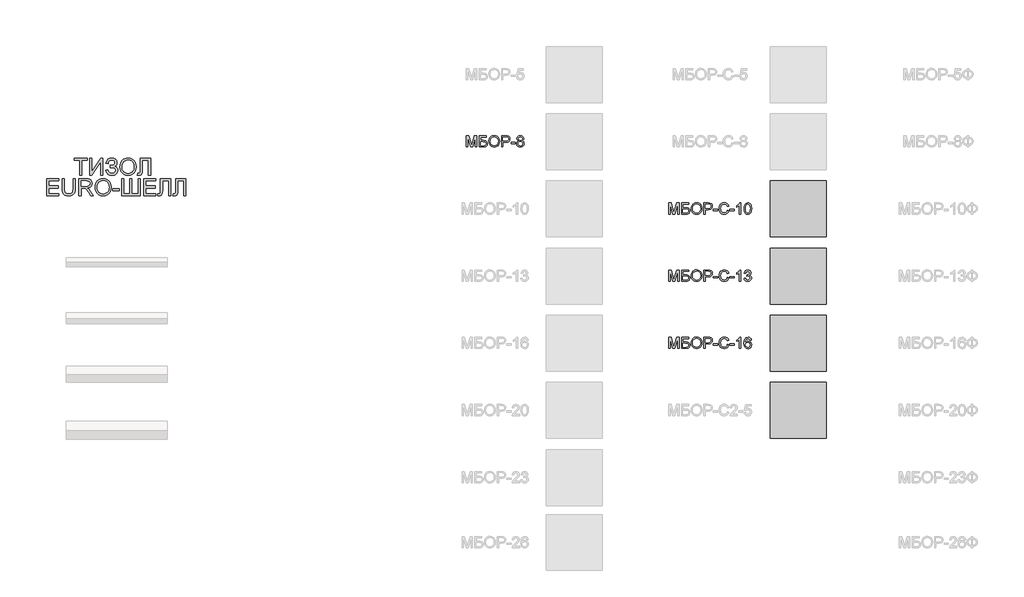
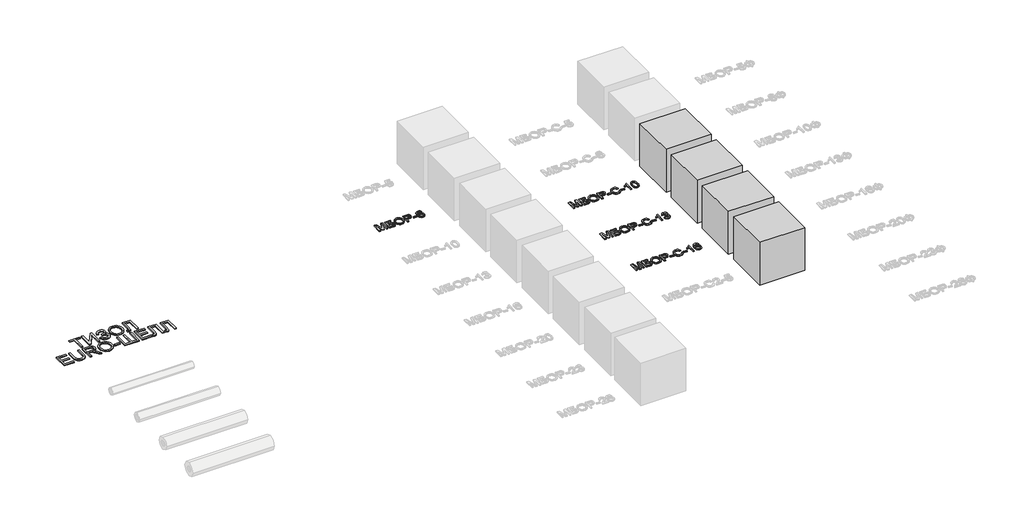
# One storey, part 23 of 35: 9 proxies.
"""IFC4 building model written with IfcOpenShell, lengths in millimetres."""

from ifc_helpers import new_model, si_unit, origin, origin_with_axes, place, context, project, spatial, polyline, outline, extrude, transform, mapped, element, save
from components import generic_models_0168a45e

model = new_model("IFC4")

# Units and contexts
model_context = context("Model", 3, world=origin())
ifc_project = project(units=[si_unit("LENGTHUNIT", "METRE", prefix="MILLI")], contexts=[model_context])

# Site, building, storey
site = spatial("IfcSite", under=ifc_project)
building = spatial("IfcBuilding", under=site)
storey = spatial("IfcBuildingStorey", under=building, Name="Этаж 01", Elevation=0.0)

# Proxies
placement = place(None, origin())
element("IfcBuildingElementProxy", 1, Name="600 мм Arial", ObjectType="600 мм Arial", at=placement, inside=storey, context=model_context, shape_type="SweptSolid", body=[
    extrude(outline(polyline([(1312.8246338, -23914.0239469), (1312.8246338, -23650.3261327), (1213.9379535, -23650.3261327), (1213.9379535, -23612.6550164), (1449.3824304, -23612.6550164), (1449.3824304, -23650.3261327), (1350.4957501, -23650.3261327), (1350.4957501, -23914.0239469), (1312.8246338, -23914.0239469)])), origin_with_axes(), (0.0, 0.0, 1.0), 20.0),
    extrude(outline(polyline([(1491.7624363, -23612.6550164), (1529.4335526, -23612.6550164), (1529.4335526, -23851.3368549), (1687.1813521, -23612.6550164), (1727.2069132, -23612.6550164), (1727.2069132, -23914.0239469), (1689.5357969, -23914.0239469), (1689.5357969, -23676.004296), (1532.1558793, -23914.0239469), (1491.7624363, -23914.0239469), (1491.7624363, -23612.6550164)])), origin_with_axes(), (0.0, 0.0, 1.0), 20.0),
    extrude(outline(polyline([(1779.0046981, -23829.2639352), (1816.6758144, -23819.8461561), (1824.6312626, -23840.2360157), (1839.8155919, -23860.6442694), (1861.6769795, -23875.9573574), (1889.6636023, -23881.0617201), (1918.018107, -23877.2265503), (1939.6587654, -23865.7210409), (1953.3715668, -23848.7892721), (1957.9425006, -23828.675324), (1952.9485025, -23807.6048827), (1937.9665082, -23791.3353015), (1914.3760753, -23780.9334381), (1883.5567611, -23777.4661503), (1863.7647098, -23777.4661503), (1863.7647098, -23739.795034), (1906.402233, -23736.7416134), (1920.2989754, -23731.315354), (1932.4850665, -23721.1434168), (1940.9831406, -23707.7433151), (1943.8158319, -23692.6325622), (1940.0450415, -23674.891453), (1928.7326701, -23659.6335472), (1910.9823639, -23649.1213192), (1887.8977687, -23645.6172432), (1867.0296625, -23648.3119788), (1849.4541002, -23656.3961856), (1835.9896192, -23668.9317646), (1827.4547569, -23684.9806167), (1821.384704, -23711.5416967), (1783.7135876, -23702.1239176), (1795.4168336, -23660.9211342), (1804.8311638, -23644.7343264), (1816.6206321, -23631.4905746), (1830.7852386, -23621.1898787), (1847.3249831, -23613.8322388), (1866.2398658, -23609.4176549), (1887.5298867, -23607.9461269), (1908.0416072, -23609.4751364), (1926.313846, -23614.0621651), (1942.3466032, -23621.7072128), (1956.1398788, -23632.4102796), (1967.2292217, -23645.15969), (1975.1501809, -23658.9437685), (1979.9027564, -23673.7625151), (1981.4869483, -23689.6159298), (1979.0221389, -23709.4401708), (1971.6277108, -23726.90077), (1959.3036639, -23741.9977274), (1942.0499984, -23754.731043), (1963.000878, -23764.3787483), (1980.2361495, -23780.6667236), (1991.76925, -23802.1970174), (1995.6136169, -23827.571678), (1993.7696084, -23846.2026018), (1988.2375829, -23863.2470345), (1979.0175404, -23878.7049761), (1966.1094809, -23892.5764266), (1950.1571978, -23904.0198559), (1931.8044848, -23912.1937339), (1911.0513418, -23917.0980608), (1887.8977687, -23918.7328364), (1849.6932235, -23913.1410301), (1833.3362703, -23906.1512722), (1818.80953, -23896.3656111), (1806.1130026, -23883.7840469), (1795.2466882, -23868.4065795), (1779.0046981, -23829.2639352)])), origin_with_axes(), (0.0, 0.0, 1.0), 20.0),
    extrude(outline(polyline([(2033.2847332, -23767.3126072), (2035.7955278, -23731.963746), (2043.3279116, -23700.6707838), (2055.8818847, -23673.4337205), (2073.457447, -23650.2525563), (2095.0015364, -23631.7434934), (2119.4610905, -23618.5227342), (2146.8361095, -23610.5902787), (2177.1265933, -23607.9461269), (2216.6555137, -23612.9125338), (2252.1009439, -23627.8117546), (2281.5315035, -23651.5953256), (2303.015812, -23683.2147831), (2316.1491993, -23721.1434168), (2320.526995, -23763.8545164), (2315.919273, -23807.1358332), (2302.096107, -23845.5978958), (2279.8208522, -23877.2725356), (2249.8568637, -23900.1915839), (2214.7149361, -23914.0975233), (2176.9058641, -23918.7328364), (2136.7699384, -23913.6100796), (2101.1221731, -23898.2418093), (2071.7651899, -23874.0167799), (2050.5016105, -23842.323746), (2037.5889525, -23805.8574432), (2033.2847332, -23767.3126072)]), holes=[polyline([(2070.9558495, -23767.6804892), (2072.8389454, -23792.6550781), (2078.4882333, -23814.8245669), (2087.9037131, -23834.1889554), (2101.0853849, -23850.7482437), (2117.108945, -23864.0103896), (2135.0500901, -23873.483351), (2154.90882, -23879.1671278), (2176.6851349, -23881.0617201), (2198.8339303, -23879.1487337), (2218.927185, -23873.4097746), (2236.9648991, -23863.8448427), (2252.9470725, -23850.4539381), (2266.0321752, -23833.5451619), (2275.3786771, -23813.4266153), (2280.9865783, -23790.0982983), (2282.8558787, -23763.5602108), (2279.6553053, -23730.211708), (2270.0535853, -23701.3881537), (2254.2990388, -23677.8161148), (2232.6399864, -23660.2221584), (2206.5111677, -23649.268472), (2177.3473225, -23645.6172432), (2156.327465, -23647.376179), (2136.8251207, -23652.6529863), (2118.8402897, -23661.4476653), (2102.3729719, -23673.7602158), (2088.6279808, -23690.1838476), (2078.8101301, -23711.3117705), (2072.9194196, -23737.1439843), (2070.9558495, -23767.6804892)])]), origin_with_axes(), (0.0, 0.0, 1.0), 20.0),
    extrude(outline(polyline([(2395.8692276, -23612.6550164), (2579.5159196, -23612.6550164), (2579.5159196, -23914.0239469), (2541.8448033, -23914.0239469), (2541.8448033, -23650.3261327), (2433.5403439, -23650.3261327), (2433.5403439, -23804.1008067), (2429.1625482, -23872.7107988), (2422.3843224, -23892.09818), (2410.8052366, -23906.6295188), (2394.9495226, -23915.707007), (2375.3414123, -23918.7328364), (2344.0714427, -23914.0239469), (2348.7803322, -23876.3528306), (2366.80655, -23881.0617201), (2379.5444641, -23878.5325314), (2388.6219523, -23870.9449652), (2394.0574088, -23853.9764082), (2395.8692276, -23823.3042469), (2395.8692276, -23612.6550164)])), origin_with_axes(), (0.0, 0.0, 1.0), 20.0),
    extrude(outline(polyline([(721.8589968, -24279.9484004), (721.8589968, -23978.57947), (938.4679155, -23978.57947), (938.4679155, -24016.2505863), (759.5301131, -24016.2505863), (759.5301131, -24105.7194875), (929.0501365, -24105.7194875), (929.0501365, -24143.3906038), (759.5301131, -24143.3906038), (759.5301131, -24242.2772841), (943.1768051, -24242.2772841), (943.1768051, -24279.9484004), (721.8589968, -24279.9484004)])), origin_with_axes(), (0.0, 0.0, 1.0), 20.0),
    extrude(outline(polyline([(1197.4568401, -23978.57947), (1235.1279564, -23978.57947), (1235.1279564, -24152.4405009), (1232.5711766, -24193.1558407), (1224.900837, -24224.5085837), (1210.5718333, -24248.6968249), (1188.0390611, -24267.9186592), (1157.2473381, -24280.4726322), (1118.141482, -24284.6572899), (1079.8909515, -24281.0152582), (1049.3107607, -24270.0891629), (1026.3917124, -24252.2560832), (1011.1246096, -24227.8930981), (1002.543762, -24195.2159799), (999.6834795, -24152.4405009), (999.6834795, -23978.57947), (1037.3545958, -23978.57947), (1037.3545958, -24151.1161257), (1039.2123999, -24184.9704663), (1044.7858121, -24208.5425051), (1054.8841729, -24224.8672687), (1070.3168226, -24236.9797834), (1090.4399677, -24244.4845761), (1114.6098148, -24246.9861736), (1152.9247246, -24242.0381608), (1167.2675239, -24235.8531448), (1178.4005528, -24227.1941223), (1186.7376785, -24215.0172283), (1192.6927683, -24198.2785975), (1197.4568401, -24151.1161257), (1197.4568401, -23978.57947)])), origin_with_axes(), (0.0, 0.0, 1.0), 20.0),
    extrude(outline(polyline([(1301.05241, -24279.9484004), (1301.05241, -23978.57947), (1430.9147543, -23978.57947), (1465.8175586, -23980.612018), (1491.2106133, -23986.7096621), (1509.7702599, -23997.9668511), (1524.17284, -24015.4780341), (1533.4158752, -24037.1922688), (1536.4968869, -24061.0586133), (1531.3925242, -24090.7466903), (1516.0794362, -24115.3579958), (1504.479657, -24125.3873787), (1490.0977702, -24133.4026076), (1452.987674, -24143.3906038), (1474.3984061, -24159.5038352), (1504.9326117, -24198.2785975), (1555.1852922, -24279.9484004), (1511.4073348, -24279.9484004), (1472.1911141, -24217.4820376), (1443.8642005, -24176.1321014), (1423.9617846, -24156.5975674), (1406.0459314, -24149.4238685), (1384.1937409, -24148.0994933), (1338.7235263, -24148.0994933), (1338.7235263, -24279.9484004), (1301.05241, -24279.9484004)]), holes=[polyline([(1338.7235263, -24110.428377), (1423.0420796, -24110.428377), (1447.2579119, -24109.0948048), (1466.0474848, -24105.0940881), (1480.1925475, -24098.1595125), (1490.4748493, -24088.0243635), (1496.7380403, -24075.764696), (1498.8257706, -24062.4565649), (1494.843448, -24044.0808592), (1482.8964802, -24029.2736089), (1462.3410737, -24019.5063419), (1432.533435, -24016.2505863), (1338.7235263, -24016.2505863), (1338.7235263, -24110.428377)])]), origin_with_axes(), (0.0, 0.0, 1.0), 20.0),
    extrude(outline(polyline([(1588.2946718, -24133.2370607), (1590.8054664, -24097.8881995), (1598.3378503, -24066.5952373), (1610.8918234, -24039.3581741), (1628.4673857, -24016.1770099), (1650.011475, -23997.667947), (1674.4710292, -23984.4471878), (1701.8460481, -23976.5147323), (1732.1365319, -23973.8705804), (1771.6654523, -23978.8369874), (1807.1108825, -23993.7362082), (1836.5414422, -24017.5197791), (1858.0257507, -24049.1392366), (1871.1591379, -24087.0678703), (1875.5369336, -24129.77897), (1870.9292117, -24173.0602867), (1857.1060457, -24211.5223493), (1834.8307909, -24243.1969891), (1804.8668024, -24266.1160374), (1769.7248748, -24280.0219768), (1731.9158027, -24284.6572899), (1691.7798771, -24279.5345332), (1656.1321117, -24264.1662628), (1626.7751285, -24239.9412334), (1605.5115492, -24208.2481995), (1592.5988912, -24171.7818968), (1588.2946718, -24133.2370607)]), holes=[polyline([(1625.9657881, -24133.6049427), (1627.8488841, -24158.5795317), (1633.498172, -24180.7490204), (1642.9136518, -24200.1134089), (1656.0953235, -24216.6726972), (1672.1188837, -24229.9348432), (1690.0600287, -24239.4078045), (1709.9187587, -24245.0915814), (1731.6950735, -24246.9861736), (1753.8438689, -24245.0731873), (1773.9371236, -24239.3342281), (1791.9748377, -24229.7692963), (1807.9570111, -24216.3783916), (1821.0421138, -24199.4696154), (1830.3886158, -24179.3510688), (1835.9965169, -24156.0227518), (1837.8658173, -24129.4846644), (1834.665244, -24096.1361615), (1825.0635239, -24067.3126072), (1809.3089775, -24043.7405684), (1787.649925, -24026.1466119), (1761.5211063, -24015.1929255), (1732.3572611, -24011.5416967), (1711.3374036, -24013.3006325), (1691.8350593, -24018.5774399), (1673.8502283, -24027.3721188), (1657.3829105, -24039.6846694), (1643.6379195, -24056.1083012), (1633.8200687, -24077.236224), (1627.9293583, -24103.0684379), (1625.9657881, -24133.6049427)])]), origin_with_axes(), (0.0, 0.0, 1.0), 20.0),
    extrude(outline(polyline([(1903.7902709, -24190.4794992), (1903.7902709, -24152.8083829), (2021.5125093, -24152.8083829), (2021.5125093, -24190.4794992), (1903.7902709, -24190.4794992)])), origin_with_axes(), (0.0, 0.0, 1.0), 20.0),
    extrude(outline(polyline([(2063.8925152, -23978.57947), (2101.5636315, -23978.57947), (2101.5636315, -24242.2772841), (2209.8680909, -24242.2772841), (2209.8680909, -23978.57947), (2247.5392072, -23978.57947), (2247.5392072, -24242.2772841), (2355.8436665, -24242.2772841), (2355.8436665, -23978.57947), (2393.5147829, -23978.57947), (2393.5147829, -24279.9484004), (2063.8925152, -24279.9484004), (2063.8925152, -23978.57947)])), origin_with_axes(), (0.0, 0.0, 1.0), 20.0),
    extrude(outline(polyline([(2454.7303468, -24279.9484004), (2454.7303468, -23978.57947), (2671.3392656, -23978.57947), (2671.3392656, -24016.2505863), (2492.4014632, -24016.2505863), (2492.4014632, -24105.7194875), (2661.9214865, -24105.7194875), (2661.9214865, -24143.3906038), (2492.4014632, -24143.3906038), (2492.4014632, -24242.2772841), (2676.0481551, -24242.2772841), (2676.0481551, -24279.9484004), (2454.7303468, -24279.9484004)])), origin_with_axes(), (0.0, 0.0, 1.0), 20.0),
    extrude(outline(polyline([(2756.0992773, -23978.57947), (2939.7459693, -23978.57947), (2939.7459693, -24279.9484004), (2902.074853, -24279.9484004), (2902.074853, -24016.2505863), (2793.7703936, -24016.2505863), (2793.7703936, -24170.0252602), (2789.3925979, -24238.6352523), (2782.6143721, -24258.0226335), (2771.0352863, -24272.5539723), (2755.1795723, -24281.6314605), (2735.571462, -24284.6572899), (2704.3014924, -24279.9484004), (2709.0103819, -24242.2772841), (2727.0365997, -24246.9861736), (2739.7745138, -24244.4569849), (2748.852002, -24236.8694188), (2754.2874585, -24219.9008617), (2756.0992773, -24189.2287004), (2756.0992773, -23978.57947)])), origin_with_axes(), (0.0, 0.0, 1.0), 20.0),
    extrude(outline(polyline([(3029.2148705, -23978.57947), (3212.8615625, -23978.57947), (3212.8615625, -24279.9484004), (3175.1904462, -24279.9484004), (3175.1904462, -24016.2505863), (3066.8859868, -24016.2505863), (3066.8859868, -24170.0252602), (3062.5081911, -24238.6352523), (3055.7299653, -24258.0226335), (3044.1508795, -24272.5539723), (3028.2951655, -24281.6314605), (3008.6870552, -24284.6572899), (2977.4170856, -24279.9484004), (2982.1259751, -24242.2772841), (3000.1521929, -24246.9861736), (3012.890107, -24244.4569849), (3021.9675952, -24236.8694188), (3027.4030517, -24219.9008617), (3029.2148705, -24189.2287004), (3029.2148705, -23978.57947)])), origin_with_axes(), (0.0, 0.0, 1.0), 20.0),
])
element("IfcBuildingElementProxy", 2, Name="400 мм Arial", ObjectType="400 мм Arial", at=placement, inside=storey, context=model_context, shape_type="SweptSolid", body=[
    extrude(outline(polyline([(8221.9690007, -23410.2364996), (8221.9690007, -23209.3238793), (8265.1828724, -23209.3238793), (8306.287554, -23350.933922), (8314.5771616, -23380.5116344), (8323.5534823, -23348.4813754), (8363.9714508, -23209.3238793), (8407.1853225, -23209.3238793), (8407.1853225, -23410.2364996), (8382.071245, -23410.2364996), (8382.071245, -23234.4379569), (8331.5978353, -23410.2364996), (8297.556488, -23410.2364996), (8247.0830782, -23234.4379569), (8247.0830782, -23410.2364996), (8221.9690007, -23410.2364996)])), origin_with_axes(), (0.0, 0.0, 1.0), 20.0),
    extrude(outline(polyline([(8451.1349582, -23209.3238793), (8576.7053459, -23209.3238793), (8576.7053459, -23234.4379569), (8476.2490358, -23234.4379569), (8476.2490358, -23294.083891), (8523.2888802, -23294.083891), (8546.6739124, -23295.3592153), (8564.7369183, -23299.185188), (8578.6060696, -23306.5550907), (8589.4095375, -23318.4622046), (8596.3625072, -23333.790621), (8598.6801638, -23351.4244313), (8597.0308261, -23366.2316816), (8592.0828133, -23380.0456506), (8583.8606507, -23392.1428368), (8572.3888638, -23401.7997392), (8554.6937399, -23408.1273095), (8527.801566, -23410.2364996), (8451.1349582, -23410.2364996), (8451.1349582, -23209.3238793)]), holes=[polyline([(8476.2490358, -23385.1224221), (8530.0579089, -23385.1224221), (8549.0774081, -23383.0500202), (8562.6767792, -23376.8328145), (8570.8437595, -23366.4708049), (8573.5660862, -23351.9639916), (8572.0087191, -23341.1605237), (8567.3366178, -23332.2945676), (8559.8870074, -23325.7217426), (8549.9971131, -23321.797668), (8512.1543185, -23319.1979686), (8476.2490358, -23319.1979686), (8476.2490358, -23385.1224221)])]), origin_with_axes(), (0.0, 0.0, 1.0), 20.0),
    extrude(outline(polyline([(8623.7942413, -23312.4289398), (8625.4681044, -23288.8630324), (8630.4896936, -23268.0010576), (8638.859009, -23249.8430154), (8650.5760505, -23234.3889059), (8664.9387768, -23222.0495307), (8681.2451462, -23213.2356912), (8699.4951589, -23207.9473875), (8719.6888147, -23206.1846196), (8746.0414283, -23209.4955576), (8769.6717151, -23219.4283715), (8789.2920882, -23235.2840855), (8803.6149605, -23256.3637238), (8812.370552, -23281.6494796), (8815.2890825, -23310.123546), (8812.2172679, -23338.9777572), (8803.0018239, -23364.6191322), (8788.151654, -23385.7355588), (8768.1756617, -23401.0149243), (8744.7477099, -23410.2855506), (8719.5416619, -23413.3757593), (8692.7843781, -23409.9605881), (8669.0192012, -23399.7150746), (8649.4478791, -23383.565055), (8635.2721595, -23362.4363657), (8626.6637209, -23338.1254972), (8623.7942413, -23312.4289398)]), holes=[polyline([(8648.9083188, -23312.6741945), (8653.9299081, -23344.1035796), (8668.9946758, -23368.0526975), (8691.6378126, -23383.2094357), (8719.3945091, -23388.2616818), (8747.5558758, -23383.1603848), (8770.2358008, -23367.8564938), (8778.9592027, -23356.5839763), (8785.1902039, -23343.1716119), (8790.175005, -23309.9273423), (8788.0412894, -23287.695007), (8781.6401427, -23268.4793042), (8771.1371117, -23252.7646116), (8756.6977434, -23241.0353073), (8739.2785309, -23233.7328497), (8719.8359675, -23231.2986972), (8692.8211663, -23235.9891926), (8669.8530671, -23250.0606789), (8660.6897397, -23261.0097668), (8654.1445059, -23275.0950487), (8648.9083188, -23312.6741945)])]), origin_with_axes(), (0.0, 0.0, 1.0), 20.0),
    extrude(outline(polyline([(8849.8209391, -23410.2364996), (8849.8209391, -23209.3238793), (8924.280255, -23209.3238793), (8954.2994258, -23211.2368657), (8978.7022648, -23220.6301193), (8987.5743522, -23228.9565151), (8994.5211906, -23240.0542887), (8999.0093509, -23253.1447563), (9000.5054044, -23267.4492346), (8996.4648338, -23291.1285723), (8984.343122, -23310.85931), (8974.6356359, -23318.6277515), (8961.6754598, -23324.1766382), (8925.9970376, -23328.6157476), (8874.9350167, -23328.6157476), (8874.9350167, -23410.2364996), (8849.8209391, -23410.2364996)]), holes=[polyline([(8874.9350167, -23303.5016701), (8927.4685656, -23303.5016701), (8949.737689, -23301.1962763), (8964.4529688, -23294.2800948), (8972.6567373, -23283.1823212), (8975.3913268, -23268.3321514), (8973.7787774, -23257.0504368), (8968.9411292, -23247.5345559), (8961.479256, -23240.3731197), (8951.9940319, -23236.1547395), (8926.8799544, -23234.4379569), (8874.9350167, -23234.4379569), (8874.9350167, -23303.5016701)])]), origin_with_axes(), (0.0, 0.0, 1.0), 20.0),
    extrude(outline(polyline([(9019.3409625, -23350.5905655), (9019.3409625, -23325.4764879), (9097.8224548, -23325.4764879), (9097.8224548, -23350.5905655), (9019.3409625, -23350.5905655)])), origin_with_axes(), (0.0, 0.0, 1.0), 20.0),
    extrude(outline(polyline([(9156.3892684, -23299.5775955), (9142.9431815, -23292.9557196), (9133.5070083, -23283.9793989), (9127.9335961, -23272.8325744), (9126.075792, -23259.6991872), (9130.122494, -23240.0665514), (9142.2625998, -23223.8429554), (9161.1349462, -23212.9536484), (9185.3783697, -23209.3238793), (9209.7689459, -23213.0394875), (9228.886547, -23224.1863119), (9241.247382, -23240.6674253), (9245.3676603, -23260.3859003), (9243.5343817, -23273.0962232), (9238.0345459, -23284.0529753), (9228.8068392, -23292.9741137), (9215.7899479, -23299.5775955), (9231.2471231, -23307.5422407), (9242.4981808, -23319.271545), (9249.35918, -23334.2014226), (9251.6461797, -23351.7677879), (9247.1089685, -23375.7782194), (9233.4973346, -23395.6193217), (9212.47901, -23408.9366499), (9185.7217262, -23413.3757593), (9158.9644424, -23408.9182558), (9137.9461178, -23395.5457453), (9124.3344839, -23375.5145707), (9119.7972727, -23351.0810748), (9122.1762429, -23332.8341278), (9129.3131536, -23317.8245424), (9140.8401228, -23306.5673534), (9156.3892684, -23299.5775955)]), holes=[polyline([(9144.9113502, -23350.198158), (9149.1052049, -23369.1072926), (9154.9116091, -23377.2190906), (9163.9431121, -23383.2584867), (9185.9179299, -23388.2616818), (9203.01218, -23385.6313255), (9215.8389989, -23377.7402567), (9223.8588264, -23365.7902233), (9226.5321022, -23350.9829729), (9223.7729872, -23335.9243366), (9215.4956423, -23323.7106544), (9202.3745178, -23315.6172505), (9185.0840641, -23312.9194492), (9168.2289373, -23315.5804623), (9155.5308771, -23323.5635016), (9147.5662319, -23335.5441919), (9144.9113502, -23350.198158)]), polyline([(9151.1898696, -23260.4349512), (9153.4155557, -23271.3978347), (9160.0926139, -23280.1534261), (9171.0248405, -23285.8923853), (9186.0160318, -23287.8053716), (9200.6577352, -23285.904648), (9211.4244149, -23280.2024771), (9218.0462908, -23271.7411912), (9220.2535828, -23261.5631227), (9217.9727144, -23250.998778), (9211.1301093, -23242.2615806), (9200.2162768, -23236.3938628), (9185.7217262, -23234.4379569), (9171.1352051, -23236.3509432), (9160.2397667, -23242.0899024), (9153.4523439, -23250.5021373), (9151.1898696, -23260.4349512)])]), origin_with_axes(), (0.0, 0.0, 1.0), 20.0),
])
element("IfcBuildingElementProxy", 3, Name="400 мм Arial", ObjectType="400 мм Arial", at=placement, inside=storey, context=model_context, shape_type="SweptSolid", body=[
    extrude(outline(polyline([(11837.5119327, -24610.2364996), (11837.5119327, -24409.3238793), (11880.7258044, -24409.3238793), (11921.830486, -24550.933922), (11930.1200936, -24580.5116344), (11939.0964143, -24548.4813754), (11979.5143828, -24409.3238793), (12022.7282545, -24409.3238793), (12022.7282545, -24610.2364996), (11997.614177, -24610.2364996), (11997.614177, -24434.4379569), (11947.1407673, -24610.2364996), (11913.09942, -24610.2364996), (11862.6260102, -24434.4379569), (11862.6260102, -24610.2364996), (11837.5119327, -24610.2364996)])), origin_with_axes(), (0.0, 0.0, 1.0), 20.0),
    extrude(outline(polyline([(12066.6778902, -24409.3238793), (12192.2482779, -24409.3238793), (12192.2482779, -24434.4379569), (12091.7919678, -24434.4379569), (12091.7919678, -24494.083891), (12138.8318122, -24494.083891), (12162.2168444, -24495.3592153), (12180.2798503, -24499.185188), (12194.1490016, -24506.5550907), (12204.9524695, -24518.4622046), (12211.9054392, -24533.790621), (12214.2230958, -24551.4244313), (12212.5737582, -24566.2316816), (12207.6257453, -24580.0456506), (12199.4035827, -24592.1428368), (12187.9317958, -24601.7997392), (12170.2366719, -24608.1273095), (12143.344498, -24610.2364996), (12066.6778902, -24610.2364996), (12066.6778902, -24409.3238793)]), holes=[polyline([(12091.7919678, -24585.1224221), (12145.6008409, -24585.1224221), (12164.6203401, -24583.0500202), (12178.2197112, -24576.8328145), (12186.3866915, -24566.4708049), (12189.1090182, -24551.9639916), (12187.5516511, -24541.1605237), (12182.8795498, -24532.2945676), (12175.4299394, -24525.7217426), (12165.5400451, -24521.797668), (12127.6972505, -24519.1979686), (12091.7919678, -24519.1979686), (12091.7919678, -24585.1224221)])]), origin_with_axes(), (0.0, 0.0, 1.0), 20.0),
    extrude(outline(polyline([(12239.3371733, -24512.4289398), (12241.0110364, -24488.8630324), (12246.0326256, -24468.0010576), (12254.401941, -24449.8430154), (12266.1189826, -24434.3889059), (12280.4817088, -24422.0495307), (12296.7880782, -24413.2356912), (12315.0380909, -24407.9473875), (12335.2317467, -24406.1846196), (12361.5843603, -24409.4955576), (12385.2146471, -24419.4283715), (12404.8350202, -24435.2840855), (12419.1578925, -24456.3637238), (12427.913484, -24481.6494796), (12430.8320145, -24510.123546), (12427.7601999, -24538.9777572), (12418.5447559, -24564.6191322), (12403.694586, -24585.7355588), (12383.7185937, -24601.0149243), (12360.290642, -24610.2855506), (12335.0845939, -24613.3757593), (12308.3273101, -24609.9605881), (12284.5621332, -24599.7150746), (12264.9908111, -24583.565055), (12250.8150916, -24562.4363657), (12242.2066529, -24538.1254972), (12239.3371733, -24512.4289398)]), holes=[polyline([(12264.4512508, -24512.6741945), (12269.4728401, -24544.1035796), (12284.5376078, -24568.0526975), (12307.1807446, -24583.2094357), (12334.9374411, -24588.2616818), (12363.0988078, -24583.1603848), (12385.7787329, -24567.8564938), (12394.5021347, -24556.5839763), (12400.733136, -24543.1716119), (12405.717937, -24509.9273423), (12403.5842214, -24487.695007), (12397.1830747, -24468.4793042), (12386.6800437, -24452.7646116), (12372.2406754, -24441.0353073), (12354.821463, -24433.7328497), (12335.3788995, -24431.2986972), (12308.3640983, -24435.9891926), (12285.3959991, -24450.0606789), (12276.2326717, -24461.0097668), (12269.6874379, -24475.0950487), (12264.4512508, -24512.6741945)])]), origin_with_axes(), (0.0, 0.0, 1.0), 20.0),
    extrude(outline(polyline([(12465.3638711, -24610.2364996), (12465.3638711, -24409.3238793), (12539.823187, -24409.3238793), (12569.8423578, -24411.2368657), (12594.2451968, -24420.6301193), (12603.1172842, -24428.9565151), (12610.0641226, -24440.0542887), (12614.5522829, -24453.1447563), (12616.0483364, -24467.4492346), (12612.0077658, -24491.1285723), (12599.886054, -24510.85931), (12590.1785679, -24518.6277515), (12577.2183918, -24524.1766382), (12541.5399696, -24528.6157476), (12490.4779487, -24528.6157476), (12490.4779487, -24610.2364996), (12465.3638711, -24610.2364996)]), holes=[polyline([(12490.4779487, -24503.5016701), (12543.0114976, -24503.5016701), (12565.280621, -24501.1962763), (12579.9959008, -24494.2800948), (12588.1996693, -24483.1823212), (12590.9342588, -24468.3321514), (12589.3217094, -24457.0504368), (12584.4840612, -24447.5345559), (12577.022188, -24440.3731197), (12567.5369639, -24436.1547395), (12542.4228864, -24434.4379569), (12490.4779487, -24434.4379569), (12490.4779487, -24503.5016701)])]), origin_with_axes(), (0.0, 0.0, 1.0), 20.0),
    extrude(outline(polyline([(12634.8838945, -24550.5905655), (12634.8838945, -24525.4764879), (12713.3653868, -24525.4764879), (12713.3653868, -24550.5905655), (12634.8838945, -24550.5905655)])), origin_with_axes(), (0.0, 0.0, 1.0), 20.0),
    extrude(outline(polyline([(12886.0246699, -24538.8183416), (12911.1387474, -24545.2930648), (12899.5504646, -24574.5580775), (12881.3648313, -24595.9381528), (12857.4770271, -24609.0163577), (12828.7822314, -24613.3757593), (12799.6521088, -24610.0770841), (12776.5184627, -24600.1810584), (12758.7865505, -24584.0310388), (12745.8616297, -24561.9703819), (12737.9705609, -24536.0347012), (12735.3402047, -24508.2596106), (12738.3139175, -24478.963941), (12747.2350558, -24453.6659225), (12761.637636, -24433.168764), (12781.0556739, -24418.2756746), (12804.0850868, -24409.2073834), (12829.3217917, -24406.1846196), (12856.857759, -24410.0964315), (12879.6235232, -24421.8318672), (12896.9078456, -24440.6674253), (12907.9994877, -24465.8796047), (12882.8854102, -24471.8638185), (12874.1788696, -24453.5494265), (12862.2840185, -24440.9862564), (12847.0537039, -24433.720587), (12828.3407731, -24431.2986972), (12806.7706254, -24433.9842357), (12789.050976, -24442.0408514), (12775.604889, -24454.6224157), (12766.8554289, -24470.8827999), (12762.0545689, -24489.2646369), (12760.4542822, -24508.2105596), (12762.3488745, -24531.4116508), (12768.0326513, -24551.4734823), (12777.7202105, -24567.6296332), (12791.6261499, -24579.1136828), (12808.2973357, -24585.9746821), (12826.2806339, -24588.2616818), (12847.2437762, -24585.1469476), (12864.7120396, -24575.8027449), (12877.9006092, -24560.3271756), (12886.0246699, -24538.8183416)])), origin_with_axes(), (0.0, 0.0, 1.0), 20.0),
    extrude(outline(polyline([(12929.9743056, -24550.5905655), (12929.9743056, -24525.4764879), (13008.4557979, -24525.4764879), (13008.4557979, -24550.5905655), (12929.9743056, -24550.5905655)])), origin_with_axes(), (0.0, 0.0, 1.0), 20.0),
    extrude(outline(polyline([(13124.6084065, -24610.2364996), (13099.494329, -24610.2364996), (13099.494329, -24453.6659225), (13075.7046266, -24470.6130197), (13049.2661739, -24483.2926858), (13049.2661739, -24459.5520344), (13086.0788989, -24436.0566377), (13099.5495113, -24422.481792), (13108.4215987, -24409.3238793), (13124.6084065, -24409.3238793), (13124.6084065, -24610.2364996)])), origin_with_axes(), (0.0, 0.0, 1.0), 20.0),
    extrude(outline(polyline([(13184.2543407, -24511.3988703), (13186.099882, -24479.2398525), (13191.636506, -24453.5923461), (13200.8090304, -24434.0639435), (13213.5622729, -24420.2622373), (13229.988204, -24412.0584688), (13250.1787942, -24409.3238793), (13265.6543634, -24410.9425601), (13279.5112519, -24415.7986025), (13291.0995348, -24423.701934), (13299.7692871, -24434.4624823), (13311.541511, -24464.1873475), (13316.1032477, -24511.3988703), (13314.2761005, -24543.373947), (13308.7946588, -24568.9601398), (13299.6773166, -24588.5069365), (13286.9424682, -24602.3638249), (13270.479749, -24610.6227757), (13250.1787942, -24613.3757593), (13224.083698, -24608.5932934), (13204.2671212, -24594.2458956), (13195.5115297, -24579.1167485), (13189.2575358, -24560.265862), (13184.2543407, -24511.3988703)]), holes=[polyline([(13209.3684182, -24511.3498193), (13212.3114741, -24550.8542142), (13221.140642, -24573.7180802), (13234.286292, -24584.6257814), (13250.1787942, -24588.2616818), (13266.0712964, -24584.6135187), (13279.2169463, -24573.6690293), (13288.0461142, -24550.7929006), (13290.9891702, -24511.3498193), (13288.1442161, -24472.7344726), (13279.6093538, -24449.6927969), (13266.4882293, -24438.2516669), (13249.8844886, -24434.4379569), (13234.1636647, -24437.7979458), (13221.5330495, -24447.8779124), (13212.409576, -24472.3543278), (13209.3684182, -24511.3498193)])]), origin_with_axes(), (0.0, 0.0, 1.0), 20.0),
])
element("IfcBuildingElementProxy", 4, Name="400 мм Arial", ObjectType="400 мм Arial", at=placement, inside=storey, context=model_context, shape_type="SweptSolid", body=[
    extrude(outline(polyline([(11837.5119327, -25810.2364996), (11837.5119327, -25609.3238793), (11880.7258044, -25609.3238793), (11921.830486, -25750.933922), (11930.1200936, -25780.5116344), (11939.0964143, -25748.4813754), (11979.5143828, -25609.3238793), (12022.7282545, -25609.3238793), (12022.7282545, -25810.2364996), (11997.614177, -25810.2364996), (11997.614177, -25634.4379569), (11947.1407673, -25810.2364996), (11913.09942, -25810.2364996), (11862.6260102, -25634.4379569), (11862.6260102, -25810.2364996), (11837.5119327, -25810.2364996)])), origin_with_axes(), (0.0, 0.0, 1.0), 20.0),
    extrude(outline(polyline([(12066.6778902, -25609.3238793), (12192.2482779, -25609.3238793), (12192.2482779, -25634.4379569), (12091.7919678, -25634.4379569), (12091.7919678, -25694.083891), (12138.8318122, -25694.083891), (12162.2168444, -25695.3592153), (12180.2798503, -25699.185188), (12194.1490016, -25706.5550907), (12204.9524695, -25718.4622046), (12211.9054392, -25733.790621), (12214.2230958, -25751.4244313), (12212.5737582, -25766.2316816), (12207.6257453, -25780.0456506), (12199.4035827, -25792.1428368), (12187.9317958, -25801.7997392), (12170.2366719, -25808.1273095), (12143.344498, -25810.2364996), (12066.6778902, -25810.2364996), (12066.6778902, -25609.3238793)]), holes=[polyline([(12091.7919678, -25785.1224221), (12145.6008409, -25785.1224221), (12164.6203401, -25783.0500202), (12178.2197112, -25776.8328145), (12186.3866915, -25766.4708049), (12189.1090182, -25751.9639916), (12187.5516511, -25741.1605237), (12182.8795498, -25732.2945676), (12175.4299394, -25725.7217426), (12165.5400451, -25721.797668), (12127.6972505, -25719.1979686), (12091.7919678, -25719.1979686), (12091.7919678, -25785.1224221)])]), origin_with_axes(), (0.0, 0.0, 1.0), 20.0),
    extrude(outline(polyline([(12239.3371733, -25712.4289398), (12241.0110364, -25688.8630324), (12246.0326256, -25668.0010576), (12254.401941, -25649.8430154), (12266.1189826, -25634.3889059), (12280.4817088, -25622.0495307), (12296.7880782, -25613.2356912), (12315.0380909, -25607.9473875), (12335.2317467, -25606.1846196), (12361.5843603, -25609.4955576), (12385.2146471, -25619.4283715), (12404.8350202, -25635.2840855), (12419.1578925, -25656.3637238), (12427.913484, -25681.6494796), (12430.8320145, -25710.123546), (12427.7601999, -25738.9777572), (12418.5447559, -25764.6191322), (12403.694586, -25785.7355588), (12383.7185937, -25801.0149243), (12360.290642, -25810.2855506), (12335.0845939, -25813.3757593), (12308.3273101, -25809.9605881), (12284.5621332, -25799.7150746), (12264.9908111, -25783.565055), (12250.8150916, -25762.4363657), (12242.2066529, -25738.1254972), (12239.3371733, -25712.4289398)]), holes=[polyline([(12264.4512508, -25712.6741945), (12269.4728401, -25744.1035796), (12284.5376078, -25768.0526975), (12307.1807446, -25783.2094357), (12334.9374411, -25788.2616818), (12363.0988078, -25783.1603848), (12385.7787329, -25767.8564938), (12394.5021347, -25756.5839763), (12400.733136, -25743.1716119), (12405.717937, -25709.9273423), (12403.5842214, -25687.695007), (12397.1830747, -25668.4793042), (12386.6800437, -25652.7646116), (12372.2406754, -25641.0353073), (12354.821463, -25633.7328497), (12335.3788995, -25631.2986972), (12308.3640983, -25635.9891926), (12285.3959991, -25650.0606789), (12276.2326717, -25661.0097668), (12269.6874379, -25675.0950487), (12264.4512508, -25712.6741945)])]), origin_with_axes(), (0.0, 0.0, 1.0), 20.0),
    extrude(outline(polyline([(12465.3638711, -25810.2364996), (12465.3638711, -25609.3238793), (12539.823187, -25609.3238793), (12569.8423578, -25611.2368657), (12594.2451968, -25620.6301193), (12603.1172842, -25628.9565151), (12610.0641226, -25640.0542887), (12614.5522829, -25653.1447563), (12616.0483364, -25667.4492346), (12612.0077658, -25691.1285723), (12599.886054, -25710.85931), (12590.1785679, -25718.6277515), (12577.2183918, -25724.1766382), (12541.5399696, -25728.6157476), (12490.4779487, -25728.6157476), (12490.4779487, -25810.2364996), (12465.3638711, -25810.2364996)]), holes=[polyline([(12490.4779487, -25703.5016701), (12543.0114976, -25703.5016701), (12565.280621, -25701.1962763), (12579.9959008, -25694.2800948), (12588.1996693, -25683.1823212), (12590.9342588, -25668.3321514), (12589.3217094, -25657.0504368), (12584.4840612, -25647.5345559), (12577.022188, -25640.3731197), (12567.5369639, -25636.1547395), (12542.4228864, -25634.4379569), (12490.4779487, -25634.4379569), (12490.4779487, -25703.5016701)])]), origin_with_axes(), (0.0, 0.0, 1.0), 20.0),
    extrude(outline(polyline([(12634.8838945, -25750.5905655), (12634.8838945, -25725.4764879), (12713.3653868, -25725.4764879), (12713.3653868, -25750.5905655), (12634.8838945, -25750.5905655)])), origin_with_axes(), (0.0, 0.0, 1.0), 20.0),
    extrude(outline(polyline([(12886.0246699, -25738.8183416), (12911.1387474, -25745.2930648), (12899.5504646, -25774.5580775), (12881.3648313, -25795.9381528), (12857.4770271, -25809.0163577), (12828.7822314, -25813.3757593), (12799.6521088, -25810.0770841), (12776.5184627, -25800.1810584), (12758.7865505, -25784.0310388), (12745.8616297, -25761.9703819), (12737.9705609, -25736.0347012), (12735.3402047, -25708.2596106), (12738.3139175, -25678.963941), (12747.2350558, -25653.6659225), (12761.637636, -25633.168764), (12781.0556739, -25618.2756746), (12804.0850868, -25609.2073834), (12829.3217917, -25606.1846196), (12856.857759, -25610.0964315), (12879.6235232, -25621.8318672), (12896.9078456, -25640.6674253), (12907.9994877, -25665.8796047), (12882.8854102, -25671.8638185), (12874.1788696, -25653.5494265), (12862.2840185, -25640.9862564), (12847.0537039, -25633.720587), (12828.3407731, -25631.2986972), (12806.7706254, -25633.9842357), (12789.050976, -25642.0408514), (12775.604889, -25654.6224157), (12766.8554289, -25670.8827999), (12762.0545689, -25689.2646369), (12760.4542822, -25708.2105596), (12762.3488745, -25731.4116508), (12768.0326513, -25751.4734823), (12777.7202105, -25767.6296332), (12791.6261499, -25779.1136828), (12808.2973357, -25785.9746821), (12826.2806339, -25788.2616818), (12847.2437762, -25785.1469476), (12864.7120396, -25775.8027449), (12877.9006092, -25760.3271756), (12886.0246699, -25738.8183416)])), origin_with_axes(), (0.0, 0.0, 1.0), 20.0),
    extrude(outline(polyline([(12929.9743056, -25750.5905655), (12929.9743056, -25725.4764879), (13008.4557979, -25725.4764879), (13008.4557979, -25750.5905655), (12929.9743056, -25750.5905655)])), origin_with_axes(), (0.0, 0.0, 1.0), 20.0),
    extrude(outline(polyline([(13124.6084065, -25810.2364996), (13099.494329, -25810.2364996), (13099.494329, -25653.6659225), (13075.7046266, -25670.6130197), (13049.2661739, -25683.2926858), (13049.2661739, -25659.5520344), (13086.0788989, -25636.0566377), (13099.5495113, -25622.481792), (13108.4215987, -25609.3238793), (13124.6084065, -25609.3238793), (13124.6084065, -25810.2364996)])), origin_with_axes(), (0.0, 0.0, 1.0), 20.0),
    extrude(outline(polyline([(13184.2543407, -25756.8690849), (13209.3684182, -25753.7298252), (13214.9908813, -25769.5119628), (13223.2253067, -25780.1682779), (13234.4763644, -25786.2383308), (13249.1487246, -25788.2616818), (13266.365602, -25785.4780414), (13279.6584047, -25777.1271201), (13288.1564788, -25764.6681832), (13290.9891702, -25749.5604959), (13288.1810043, -25735.2192295), (13279.7565066, -25723.588027), (13267.0032641, -25715.8808992), (13251.2088638, -25713.3118566), (13233.5995789, -25716.0587089), (13236.3954821, -25690.9446313), (13240.4176586, -25691.2389369), (13255.4640322, -25689.4363152), (13268.9162505, -25684.0284498), (13278.4076059, -25674.8804509), (13281.5713911, -25661.8574282), (13279.27826, -25651.0110408), (13272.3988667, -25642.2125297), (13261.9019671, -25636.3816001), (13248.7563171, -25634.4379569), (13235.5861417, -25636.3999942), (13224.819462, -25642.2861061), (13216.95905, -25652.0962926), (13212.5076779, -25665.8305538), (13187.3936003, -25662.6912941), (13194.7880284, -25640.1401278), (13207.9459411, -25623.3033952), (13225.9476334, -25612.8187583), (13247.8734003, -25609.3238793), (13263.6616693, -25611.0467933), (13278.1623513, -25616.2155354), (13290.3882963, -25624.3702529), (13299.3523542, -25635.0510935), (13304.85219, -25647.3567463), (13306.6854686, -25660.3859003), (13304.9441605, -25672.5260061), (13299.7202362, -25683.5379405), (13291.087272, -25692.9189314), (13279.1188445, -25700.1662067), (13294.8396684, -25706.5183025), (13306.4892649, -25717.3340331), (13313.699752, -25732.0247875), (13316.1032477, -25750.0019543), (13311.2962563, -25774.4783697), (13296.8752821, -25794.9326086), (13275.1089307, -25808.7649717), (13248.2658078, -25813.3757593), (13223.9855961, -25809.439422), (13204.2180703, -25797.6304099), (13190.4715464, -25779.567404), (13184.2543407, -25756.8690849)])), origin_with_axes(), (0.0, 0.0, 1.0), 20.0),
])
element("IfcBuildingElementProxy", 5, Name="400 мм Arial", ObjectType="400 мм Arial", at=placement, inside=storey, context=model_context, shape_type="SweptSolid", body=[
    extrude(outline(polyline([(11837.5119327, -27010.2364996), (11837.5119327, -26809.3238793), (11880.7258044, -26809.3238793), (11921.830486, -26950.933922), (11930.1200936, -26980.5116344), (11939.0964143, -26948.4813754), (11979.5143828, -26809.3238793), (12022.7282545, -26809.3238793), (12022.7282545, -27010.2364996), (11997.614177, -27010.2364996), (11997.614177, -26834.4379569), (11947.1407673, -27010.2364996), (11913.09942, -27010.2364996), (11862.6260102, -26834.4379569), (11862.6260102, -27010.2364996), (11837.5119327, -27010.2364996)])), origin_with_axes(), (0.0, 0.0, 1.0), 20.0),
    extrude(outline(polyline([(12066.6778902, -26809.3238793), (12192.2482779, -26809.3238793), (12192.2482779, -26834.4379569), (12091.7919678, -26834.4379569), (12091.7919678, -26894.083891), (12138.8318122, -26894.083891), (12162.2168444, -26895.3592153), (12180.2798503, -26899.185188), (12194.1490016, -26906.5550907), (12204.9524695, -26918.4622046), (12211.9054392, -26933.790621), (12214.2230958, -26951.4244313), (12212.5737582, -26966.2316816), (12207.6257453, -26980.0456506), (12199.4035827, -26992.1428368), (12187.9317958, -27001.7997392), (12170.2366719, -27008.1273095), (12143.344498, -27010.2364996), (12066.6778902, -27010.2364996), (12066.6778902, -26809.3238793)]), holes=[polyline([(12091.7919678, -26985.1224221), (12145.6008409, -26985.1224221), (12164.6203401, -26983.0500202), (12178.2197112, -26976.8328145), (12186.3866915, -26966.4708049), (12189.1090182, -26951.9639916), (12187.5516511, -26941.1605237), (12182.8795498, -26932.2945676), (12175.4299394, -26925.7217426), (12165.5400451, -26921.797668), (12127.6972505, -26919.1979686), (12091.7919678, -26919.1979686), (12091.7919678, -26985.1224221)])]), origin_with_axes(), (0.0, 0.0, 1.0), 20.0),
    extrude(outline(polyline([(12239.3371733, -26912.4289398), (12241.0110364, -26888.8630324), (12246.0326256, -26868.0010576), (12254.401941, -26849.8430154), (12266.1189826, -26834.3889059), (12280.4817088, -26822.0495307), (12296.7880782, -26813.2356912), (12315.0380909, -26807.9473875), (12335.2317467, -26806.1846196), (12361.5843603, -26809.4955576), (12385.2146471, -26819.4283715), (12404.8350202, -26835.2840855), (12419.1578925, -26856.3637238), (12427.913484, -26881.6494796), (12430.8320145, -26910.123546), (12427.7601999, -26938.9777572), (12418.5447559, -26964.6191322), (12403.694586, -26985.7355588), (12383.7185937, -27001.0149243), (12360.290642, -27010.2855506), (12335.0845939, -27013.3757593), (12308.3273101, -27009.9605881), (12284.5621332, -26999.7150746), (12264.9908111, -26983.565055), (12250.8150916, -26962.4363657), (12242.2066529, -26938.1254972), (12239.3371733, -26912.4289398)]), holes=[polyline([(12264.4512508, -26912.6741945), (12269.4728401, -26944.1035796), (12284.5376078, -26968.0526975), (12307.1807446, -26983.2094357), (12334.9374411, -26988.2616818), (12363.0988078, -26983.1603848), (12385.7787329, -26967.8564938), (12394.5021347, -26956.5839763), (12400.733136, -26943.1716119), (12405.717937, -26909.9273423), (12403.5842214, -26887.695007), (12397.1830747, -26868.4793042), (12386.6800437, -26852.7646116), (12372.2406754, -26841.0353073), (12354.821463, -26833.7328497), (12335.3788995, -26831.2986972), (12308.3640983, -26835.9891926), (12285.3959991, -26850.0606789), (12276.2326717, -26861.0097668), (12269.6874379, -26875.0950487), (12264.4512508, -26912.6741945)])]), origin_with_axes(), (0.0, 0.0, 1.0), 20.0),
    extrude(outline(polyline([(12465.3638711, -27010.2364996), (12465.3638711, -26809.3238793), (12539.823187, -26809.3238793), (12569.8423578, -26811.2368657), (12594.2451968, -26820.6301193), (12603.1172842, -26828.9565151), (12610.0641226, -26840.0542887), (12614.5522829, -26853.1447563), (12616.0483364, -26867.4492346), (12612.0077658, -26891.1285723), (12599.886054, -26910.85931), (12590.1785679, -26918.6277515), (12577.2183918, -26924.1766382), (12541.5399696, -26928.6157476), (12490.4779487, -26928.6157476), (12490.4779487, -27010.2364996), (12465.3638711, -27010.2364996)]), holes=[polyline([(12490.4779487, -26903.5016701), (12543.0114976, -26903.5016701), (12565.280621, -26901.1962763), (12579.9959008, -26894.2800948), (12588.1996693, -26883.1823212), (12590.9342588, -26868.3321514), (12589.3217094, -26857.0504368), (12584.4840612, -26847.5345559), (12577.022188, -26840.3731197), (12567.5369639, -26836.1547395), (12542.4228864, -26834.4379569), (12490.4779487, -26834.4379569), (12490.4779487, -26903.5016701)])]), origin_with_axes(), (0.0, 0.0, 1.0), 20.0),
    extrude(outline(polyline([(12634.8838945, -26950.5905655), (12634.8838945, -26925.4764879), (12713.3653868, -26925.4764879), (12713.3653868, -26950.5905655), (12634.8838945, -26950.5905655)])), origin_with_axes(), (0.0, 0.0, 1.0), 20.0),
    extrude(outline(polyline([(12886.0246699, -26938.8183416), (12911.1387474, -26945.2930648), (12899.5504646, -26974.5580775), (12881.3648313, -26995.9381528), (12857.4770271, -27009.0163577), (12828.7822314, -27013.3757593), (12799.6521088, -27010.0770841), (12776.5184627, -27000.1810584), (12758.7865505, -26984.0310388), (12745.8616297, -26961.9703819), (12737.9705609, -26936.0347012), (12735.3402047, -26908.2596106), (12738.3139175, -26878.963941), (12747.2350558, -26853.6659225), (12761.637636, -26833.168764), (12781.0556739, -26818.2756746), (12804.0850868, -26809.2073834), (12829.3217917, -26806.1846196), (12856.857759, -26810.0964315), (12879.6235232, -26821.8318672), (12896.9078456, -26840.6674253), (12907.9994877, -26865.8796047), (12882.8854102, -26871.8638185), (12874.1788696, -26853.5494265), (12862.2840185, -26840.9862564), (12847.0537039, -26833.720587), (12828.3407731, -26831.2986972), (12806.7706254, -26833.9842357), (12789.050976, -26842.0408514), (12775.604889, -26854.6224157), (12766.8554289, -26870.8827999), (12762.0545689, -26889.2646369), (12760.4542822, -26908.2105596), (12762.3488745, -26931.4116508), (12768.0326513, -26951.4734823), (12777.7202105, -26967.6296332), (12791.6261499, -26979.1136828), (12808.2973357, -26985.9746821), (12826.2806339, -26988.2616818), (12847.2437762, -26985.1469476), (12864.7120396, -26975.8027449), (12877.9006092, -26960.3271756), (12886.0246699, -26938.8183416)])), origin_with_axes(), (0.0, 0.0, 1.0), 20.0),
    extrude(outline(polyline([(12929.9743056, -26950.5905655), (12929.9743056, -26925.4764879), (13008.4557979, -26925.4764879), (13008.4557979, -26950.5905655), (12929.9743056, -26950.5905655)])), origin_with_axes(), (0.0, 0.0, 1.0), 20.0),
    extrude(outline(polyline([(13124.6084065, -27010.2364996), (13099.494329, -27010.2364996), (13099.494329, -26853.6659225), (13075.7046266, -26870.6130197), (13049.2661739, -26883.2926858), (13049.2661739, -26859.5520344), (13086.0788989, -26836.0566377), (13099.5495113, -26822.481792), (13108.4215987, -26809.3238793), (13124.6084065, -26809.3238793), (13124.6084065, -27010.2364996)])), origin_with_axes(), (0.0, 0.0, 1.0), 20.0),
    extrude(outline(polyline([(13312.963988, -26862.6912941), (13287.8499105, -26865.8305538), (13278.3340296, -26844.8858055), (13266.9419504, -26837.049919), (13253.1709011, -26834.4379569), (13230.5093702, -26840.5202725), (13221.073197, -26850.128124), (13213.3660692, -26863.3534817), (13208.160539, -26882.0602811), (13206.2291585, -26908.1124578), (13216.3029938, -26896.358628), (13228.3756546, -26888.0751518), (13241.7726906, -26883.1639271), (13255.8196514, -26881.5268523), (13279.0207426, -26886.0027499), (13298.4939629, -26899.4304427), (13311.7009265, -26919.9459953), (13316.1032477, -26945.6854722), (13314.0308458, -26963.6687704), (13307.8136401, -26980.3399562), (13297.9666654, -26994.4788875), (13285.0049564, -27004.8654225), (13269.5171244, -27011.2481751), (13252.0917806, -27013.3757593), (13223.59932, -27007.7349021), (13200.9071323, -26990.8123303), (13192.2481098, -26977.7034685), (13186.0630938, -26960.9403123), (13181.115081, -26916.4511163), (13186.6087854, -26866.4314277), (13193.475916, -26847.3536806), (13203.0898988, -26832.2306649), (13213.5101563, -26822.2089462), (13225.5920142, -26815.0505757), (13254.7405309, -26809.3238793), (13276.7766624, -26812.8678092), (13294.4227355, -26823.4995989), (13306.7835705, -26840.3853825), (13312.963988, -26862.6912941)]), holes=[polyline([(13206.2291585, -26945.2930648), (13212.041694, -26967.0471534), (13227.4927378, -26982.8415537), (13250.1297433, -26988.2616818), (13266.7028271, -26985.4535159), (13279.7319811, -26977.0290182), (13288.1748729, -26963.7852664), (13290.9891702, -26946.5193381), (13288.2116611, -26929.9462542), (13279.8791339, -26917.3095077), (13266.6292507, -26909.3080743), (13249.0996737, -26906.6409298), (13232.5511153, -26909.3080743), (13218.7126209, -26917.3095077), (13209.3500241, -26929.6396859), (13206.2291585, -26945.2930648)])]), origin_with_axes(), (0.0, 0.0, 1.0), 20.0),
])
generic_models_shape = generic_models_0168a45e(model_context)
element("IfcBuildingElementProxy", 6, Name="Куб(материал) : 1000х1000", ObjectType="Куб(материал) : 1000х1000", at=placement, inside=storey, context=model_context, shape_type="MappedRepresentation", body=[
    mapped(generic_models_shape, transform((14651.5160466, -24016.2975606, 0.0), x_axis=(1.0, 0.0, 0.0), y_axis=(0.0, 1.0, 0.0), z_axis=(0.0, 0.0, 1.0))),
])
element("IfcBuildingElementProxy", 7, Name="Куб(материал) : 1000х1000", ObjectType="Куб(материал) : 1000х1000", at=placement, inside=storey, context=model_context, shape_type="MappedRepresentation", body=[
    mapped(generic_models_shape, transform((14651.5160466, -25216.2975606, 0.0), x_axis=(1.0, 0.0, 0.0), y_axis=(0.0, 1.0, 0.0), z_axis=(0.0, 0.0, 1.0))),
])
element("IfcBuildingElementProxy", 8, Name="Куб(материал) : 1000х1000", ObjectType="Куб(материал) : 1000х1000", at=placement, inside=storey, context=model_context, shape_type="MappedRepresentation", body=[
    mapped(generic_models_shape, transform((14651.5160466, -26416.2975606, 0.0), x_axis=(1.0, 0.0, 0.0), y_axis=(0.0, 1.0, 0.0), z_axis=(0.0, 0.0, 1.0))),
])
element("IfcBuildingElementProxy", 9, Name="Куб(материал) : 1000х1000", ObjectType="Куб(материал) : 1000х1000", at=placement, inside=storey, context=model_context, shape_type="MappedRepresentation", body=[
    mapped(generic_models_shape, transform((14651.5160466, -27616.2975606, 0.0), x_axis=(1.0, 0.0, 0.0), y_axis=(0.0, 1.0, 0.0), z_axis=(0.0, 0.0, 1.0))),
])

save(model, "model.ifc")
